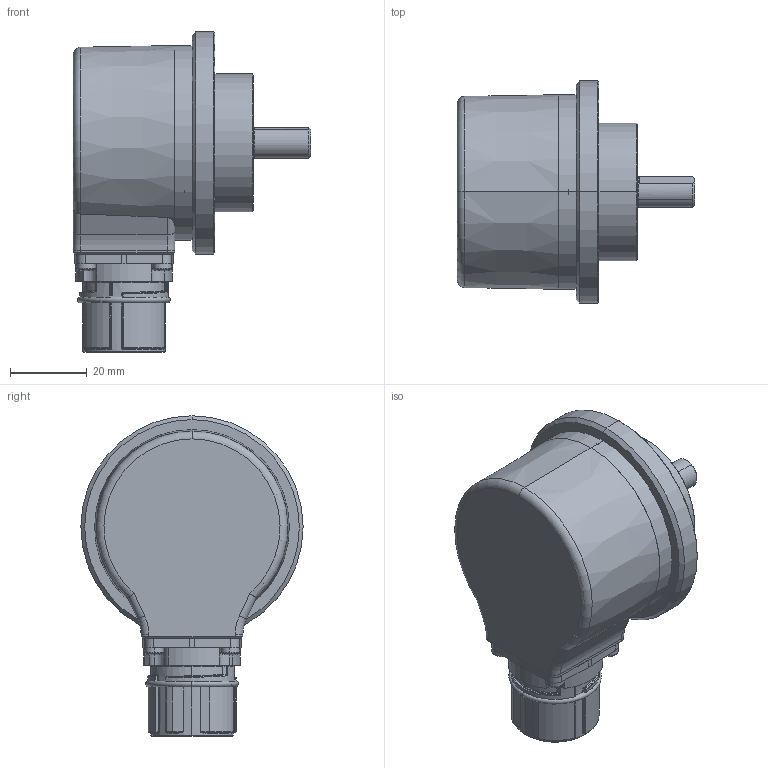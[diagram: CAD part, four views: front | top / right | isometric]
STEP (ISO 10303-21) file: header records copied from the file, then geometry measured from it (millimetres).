
FILE_DESCRIPTION (( 'STEP AP203' ), '1' );
FILE_NAME ('8.5000.86X8.XXXX.STEP', '2017-04-05T07:36:33', ( '' ), ( '' ), 'SwSTEP 2.0', 'SolidWorks 2017', '' );
FILE_SCHEMA (( 'CONFIG_CONTROL_DESIGN' ));
Length unit declared in the file: millimetre
Products named in the file (1): 8.5000.86X8.XXXX
Bounding box: 62 x 58 x 83.6 mm (x, y, z)
Volume: 57602.7 mm3; surface area: 40629.1 mm2
Topology: 24 solids, 24 shells, 1295 faces, 3062 edges, 1854 vertices
Faces by surface type: cylinder 471, plane 367, bspline 157, cone 148, torus 92, sphere 60
Entity records: 44172 total; most frequent: CARTESIAN_POINT 14870, DIRECTION 6265, ORIENTED_EDGE 5928, EDGE_CURVE 2964, AXIS2_PLACEMENT_3D 2531, VERTEX_POINT 1846, EDGE_LOOP 1492, CIRCLE 1392
